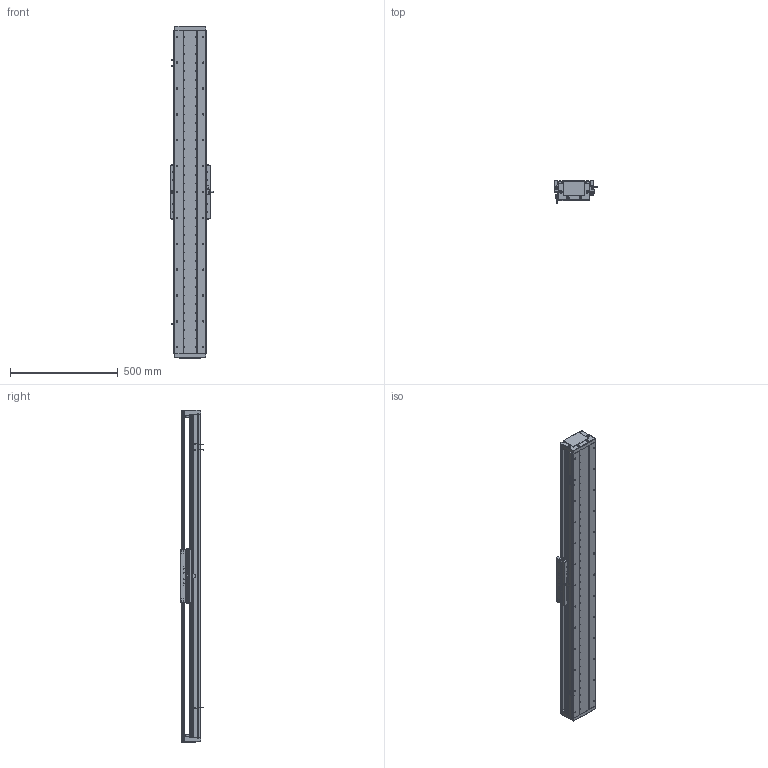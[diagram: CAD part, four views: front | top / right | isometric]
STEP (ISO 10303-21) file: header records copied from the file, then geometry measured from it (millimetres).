
FILE_DESCRIPTION (( 'STEP AP203' ), '1' );
FILE_NAME ('DA-C145-C3-T1200-C010-0.2 眻盄萇儂.STEP', '2025-08-14T01:22:53', ( '' ), ( '' ), 'SwSTEP 2.0', 'SolidWorks 2019', '' );
FILE_SCHEMA (( 'CONFIG_CONTROL_DESIGN' ));
Length unit declared in the file: millimetre
Products named in the file (29): 葩璃 DA145-C3-DP-A-00 菜えA^CU145-W 幗紩賑怢; 葩璃 CKMA01-W060-TRL^DA-C145-C3-T-C010-0.2; 葩璃 DA145-C3-DP-B-00 菜えB^CU145-W 幗紩賑怢; DA-C145-C3-T1200-C010-0.2 眻盄萇儂; 复件 DA95-DB-00  挡板^CU145-W 滚珠滑台; IU-CU145-L 菁釱絳寢; 葩璃 DA95-GT-T-00^IU-CU145-L 菁釱絳寢; 复件 内六角平端紧定螺钉 GB.T77-2000 M5×10^CU145-W 滚珠滑台; 复件 DA95-HK-GT-00 滑块钢轨^CU145-W-00 一体化滑动台板; 葩璃 DA95-HXJ-00 遣喳砎蝶^DA-C145-C3-T-C010-0.2; 葩璃 PM-T45^DA-C145-C3-T-C010-0.2; 复件 DA145-C3-YB-A-00 压板A^CU145-W 滚珠滑台; 复件 DA145-GYP-00 光电感应片^DA-C145-C3-T-C010-0.2; 葩璃 DMA-010-0.2 黍杅芛^DA-C145-C3-T-C010-0.2; 葩璃 XD-U-02L 棠掑喜^DA-C145-C3-T-C010-0.2; 复件 DA145-C3-DK-00 挡块^CU145-W 滚珠滑台; CU145-W-00 珨极趙賑雄怢啣; 葩璃 DA145-DG-H-N-00 傷裔^DA-C145-C3-T-C010-0.2; 葩璃 鞠褒情蹟譫 M3^DA-C145-C3-T-C010-0.2; 葩璃 CKM03-W060-C1C2-TP-0.2^DA-C145-C3-T-C010-0.2; TAY01-M8; 复件 纯铜油杯 6x6mm^CU145-W 滚珠滑台; CU145-W 幗紩賑怢; 复件 半圆头内六角螺钉 M3×6^CU145-W 滚珠滑台; 66245-CU145-HT-W-00 賑雄怢啣(3D芞祧)(00); 葩璃 DA145-T-003-00 裔啣^DA-C145-C3-T-C010-0.2; 复件 DA95-MFP-01 密封片^CU145-W 滚珠滑台; IU-CU145-L-00 菁釱(L1500); 复件 DA145-C3-YB-B-00 压板B^CU145-W 滚珠滑台
Assembly tree (98 placements, depth 4):
  DA-C145-C3-T1200-C010-0.2 眻盄萇儂
    IU-CU145-L 菁釱絳寢
      IU-CU145-L-00 菁釱(L1500)
      葩璃 DA95-GT-T-00^IU-CU145-L 菁釱絳寢  x4
    CU145-W 幗紩賑怢
      CU145-W-00 珨极趙賑雄怢啣
        66245-CU145-HT-W-00 賑雄怢啣(3D芞祧)(00)
        复件 DA95-HK-GT-00 滑块钢轨^CU145-W-00 一体化滑动台板  x8
      复件 DA95-MFP-01 密封片^CU145-W 滚珠滑台  x8
      复件 DA95-DB-00  挡板^CU145-W 滚珠滑台  x8
      复件 内六角平端紧定螺钉 GB.T77-2000 M5×10^CU145-W 滚珠滑台  x4
      复件 纯铜油杯 6x6mm^CU145-W 滚珠滑台  x4
      复件 半圆头内六角螺钉 M3×6^CU145-W 滚珠滑台  x16
      复件 DA145-C3-DK-00 挡块^CU145-W 滚珠滑台  x4
      葩璃 DA145-C3-DP-B-00 菜えB^CU145-W 幗紩賑怢  x2
      复件 DA145-C3-YB-B-00 压板B^CU145-W 滚珠滑台  x2
      葩璃 DA145-C3-DP-A-00 菜えA^CU145-W 幗紩賑怢  x3
      复件 DA145-C3-YB-A-00 压板A^CU145-W 滚珠滑台  x3
      TAY01-M8  x4
    葩璃 CKMA01-W060-TRL^DA-C145-C3-T-C010-0.2
    葩璃 PM-T45^DA-C145-C3-T-C010-0.2  x3
    葩璃 XD-U-02L 棠掑喜^DA-C145-C3-T-C010-0.2
    葩璃 DA145-DG-H-N-00 傷裔^DA-C145-C3-T-C010-0.2  x2
    葩璃 DA145-T-003-00 裔啣^DA-C145-C3-T-C010-0.2
    葩璃 DA95-HXJ-00 遣喳砎蝶^DA-C145-C3-T-C010-0.2  x4
    复件 DA145-GYP-00 光电感应片^DA-C145-C3-T-C010-0.2
    葩璃 DMA-010-0.2 黍杅芛^DA-C145-C3-T-C010-0.2
    葩璃 CKM03-W060-C1C2-TP-0.2^DA-C145-C3-T-C010-0.2
    葩璃 鞠褒情蹟譫 M3^DA-C145-C3-T-C010-0.2  x8
Bounding box: 203.5 x 108.45 x 1540 mm (x, y, z)
Volume: 9157847.4 mm3; surface area: 2777121.2 mm2
Topology: 95 solids, 127 shells, 4145 faces, 11325 edges, 7028 vertices
Faces by surface type: cylinder 1846, plane 1583, cone 626, torus 86, sphere 4
Entity records: 102483 total; most frequent: CARTESIAN_POINT 27714, ORIENTED_EDGE 14648, DIRECTION 14523, EDGE_CURVE 7324, AXIS2_PLACEMENT_3D 5414, VERTEX_POINT 4717, VECTOR 3695, LINE 3695
